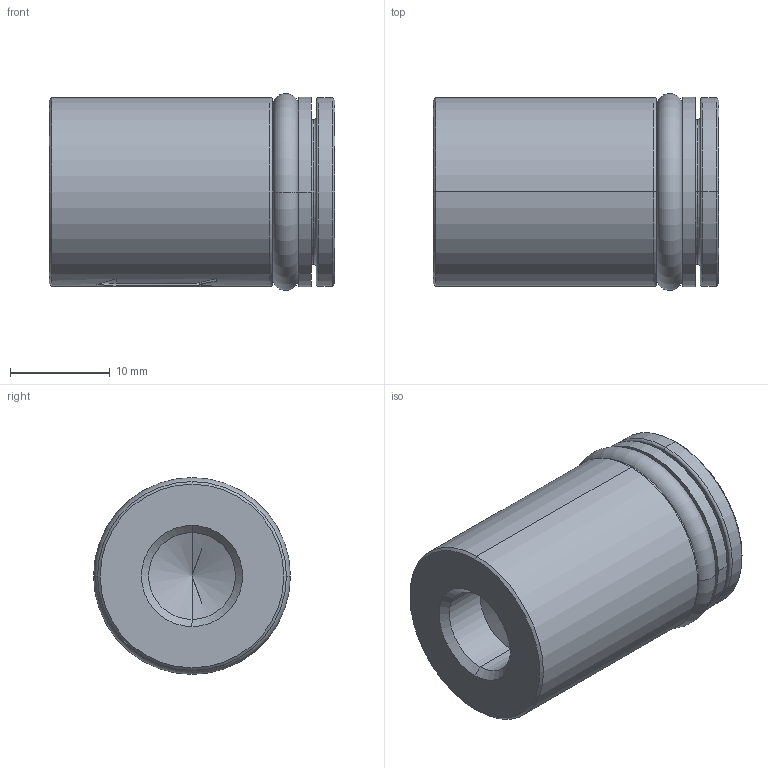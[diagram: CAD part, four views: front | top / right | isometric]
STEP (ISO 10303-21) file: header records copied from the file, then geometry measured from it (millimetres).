
FILE_DESCRIPTION (( 'STEP AP203' ), '1' );
FILE_NAME ('CCV-750.STEP', '2020-06-29T14:07:32', ( '' ), ( '' ), 'SwSTEP 2.0', 'SolidWorks 2011', '' );
FILE_SCHEMA (( 'CONFIG_CONTROL_DESIGN' ));
Length unit declared in the file: inch
Products named in the file (2): CCV-750; Part4^CCV-750_CM
Assembly tree (1 placements, depth 2):
  CCV-750
    Part4^CCV-750_CM
Bounding box: 28.7 x 19.76 x 19.76 mm (x, y, z)
Volume: 7347.2 mm3; surface area: 3449.1 mm2
Topology: 1 solids, 1 shells, 270 faces, 700 edges, 458 vertices
Faces by surface type: plane 137, bspline 70, cylinder 39, torus 12, cone 12
Entity records: 12971 total; most frequent: CARTESIAN_POINT 6679, ORIENTED_EDGE 1392, DIRECTION 1056, EDGE_CURVE 696, VERTEX_POINT 458, AXIS2_PLACEMENT_3D 394, EDGE_LOOP 300, ADVANCED_FACE 270
